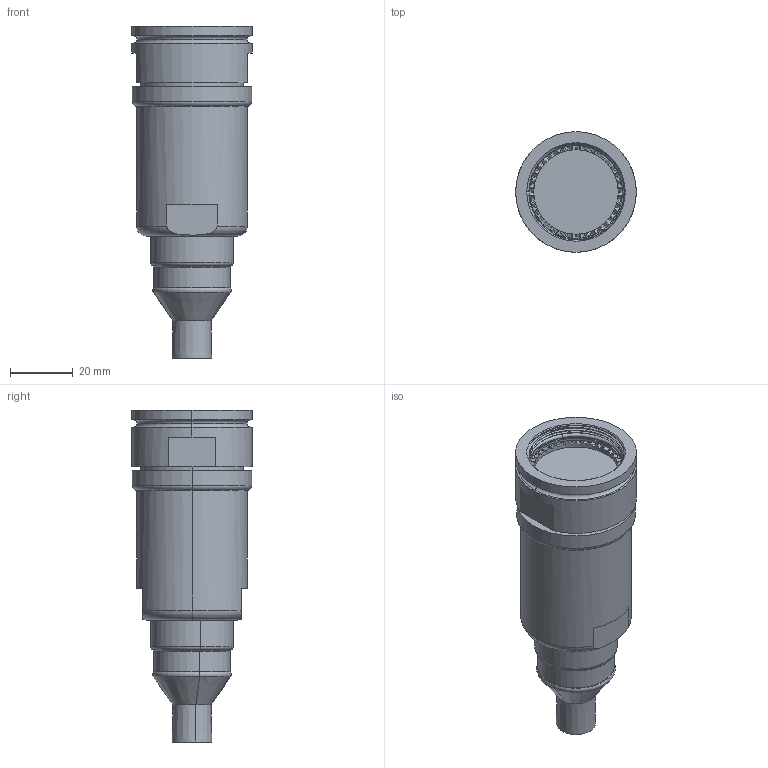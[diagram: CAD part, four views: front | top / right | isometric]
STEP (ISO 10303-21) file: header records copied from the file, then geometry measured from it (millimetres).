
FILE_DESCRIPTION (( 'STEP AP214' ), '1' );
FILE_NAME ('Q38SHELL-STX-21-XXXX-HX.STEP', '2025-09-09T18:30:38', ( '' ), ( '' ), 'SwSTEP 2.0', 'SolidWorks 2024', '' );
FILE_SCHEMA (( 'AUTOMOTIVE_DESIGN' ));
Length unit declared in the file: millimetre
Products named in the file (1): Q38SHELL-STX-21-XXXX-HX
Bounding box: 38.58 x 38.58 x 106.13 mm (x, y, z)
Volume: 73410 mm3; surface area: 16645.2 mm2
Topology: 2 solids, 2 shells, 246 faces, 654 edges, 426 vertices
Faces by surface type: plane 170, cylinder 37, torus 18, cone 18, bspline 3
Entity records: 8686 total; most frequent: CARTESIAN_POINT 2770, ORIENTED_EDGE 1308, DIRECTION 1248, EDGE_CURVE 654, AXIS2_PLACEMENT_3D 518, VERTEX_POINT 426, CIRCLE 274, EDGE_LOOP 262
